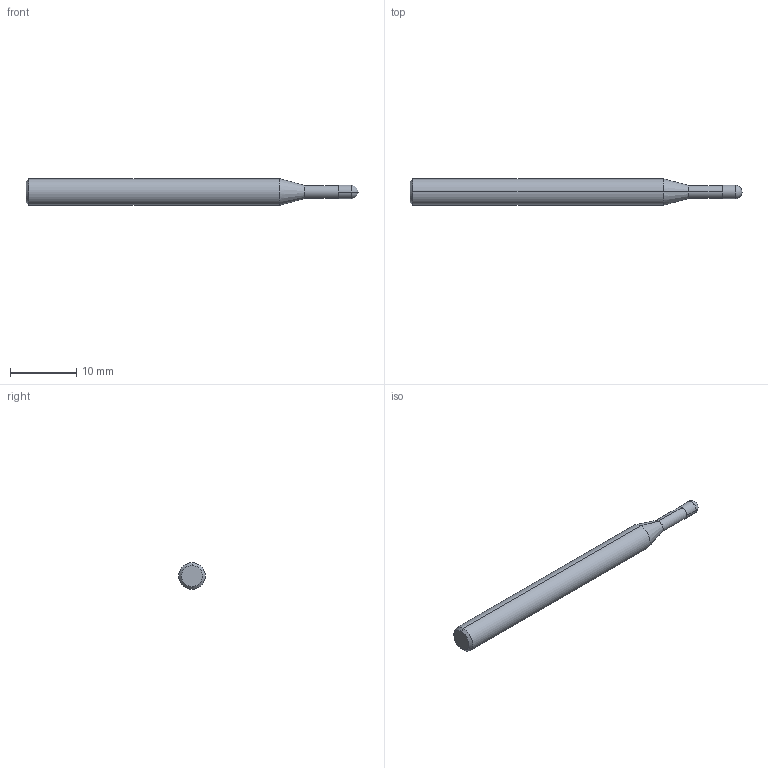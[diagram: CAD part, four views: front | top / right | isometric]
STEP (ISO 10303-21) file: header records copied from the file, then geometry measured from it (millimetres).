
FILE_DESCRIPTION (( 'STEP AP214' ), '1' );
FILE_NAME ('G9B81020.STEP', '2018-06-29T08:41:19', ( 'USER' ), ( '' ), 'SwSTEP 2.0', 'SolidWorks 2014', '' );
FILE_SCHEMA (( 'AUTOMOTIVE_DESIGN' ));
Length unit declared in the file: millimetre
Products named in the file (1): G9B81020
Bounding box: 50 x 4 x 4 mm (x, y, z)
Volume: 529.7 mm3; surface area: 581.8 mm2
Topology: 2 solids, 2 shells, 15 faces, 30 edges, 17 vertices
Faces by surface type: cylinder 6, cone 4, plane 3, sphere 2
Entity records: 403 total; most frequent: DIRECTION 74, CARTESIAN_POINT 57, ORIENTED_EDGE 52, AXIS2_PLACEMENT_3D 32, EDGE_CURVE 26, CIRCLE 16, VERTEX_POINT 15, EDGE_LOOP 15
